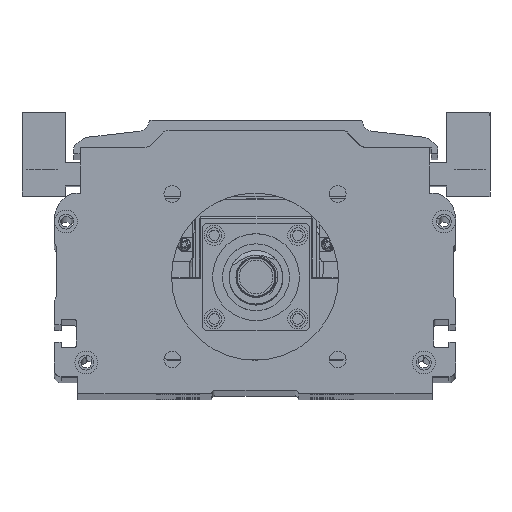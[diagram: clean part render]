
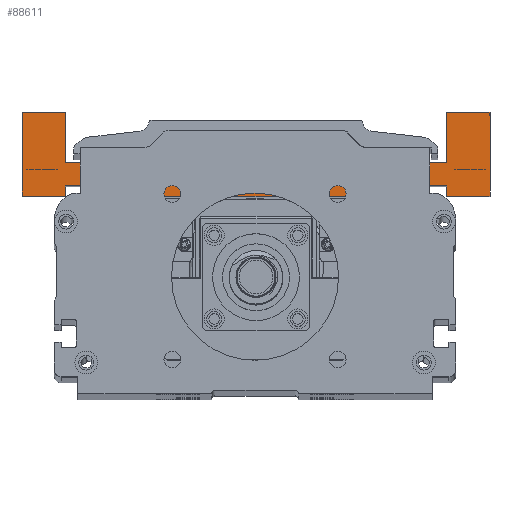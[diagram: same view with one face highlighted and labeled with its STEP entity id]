
A CAD part, top view. The second image highlights one B-rep face of the part: STEP entity #88611.
In plain terms, the highlighted planar face has unit normal (0, 0, 1) as drawn and (0, 0, -1) by its records, which use the part's own axes.
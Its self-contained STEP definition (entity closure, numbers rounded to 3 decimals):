
#235 = EDGE_CURVE ( 'NONE', #31302, #91929, #96179, .T. ) ;
#1245 = CARTESIAN_POINT ( 'NONE',  ( 13., -22., 0. ) ) ;
#1828 = DIRECTION ( 'NONE',  ( 0., 1., 0. ) ) ;
#2038 = CARTESIAN_POINT ( 'NONE',  ( 13., 0., 0. ) ) ;
#2268 = EDGE_LOOP ( 'NONE', ( #42336, #111761, #106044, #120704, #12478, #34855, #112828, #69744, #84262, #79566, #24102, #130267, #93718, #67478, #126262, #124554 ) ) ;
#2496 = LINE ( 'NONE', #72476, #26366 ) ;
#2886 = VERTEX_POINT ( 'NONE', #71598 ) ;
#5432 = VERTEX_POINT ( 'NONE', #113413 ) ;
#6831 = DIRECTION ( 'NONE',  ( 1., 0., 0. ) ) ;
#11568 = CARTESIAN_POINT ( 'NONE',  ( 13., 0., 0. ) ) ;
#11739 = VERTEX_POINT ( 'NONE', #69236 ) ;
#12478 = ORIENTED_EDGE ( 'NONE', *, *, #22990, .F. ) ;
#16610 = CARTESIAN_POINT ( 'NONE',  ( 0., -25., 0. ) ) ;
#18082 = VECTOR ( 'NONE', #118411, 1000. ) ;
#19863 = VERTEX_POINT ( 'NONE', #1245 ) ;
#19935 = CARTESIAN_POINT ( 'NONE',  ( 127., 0., 0. ) ) ;
#21296 = CARTESIAN_POINT ( 'NONE',  ( 19., -22., 0. ) ) ;
#21312 = CARTESIAN_POINT ( 'NONE',  ( 0., -25., 0. ) ) ;
#21749 = DIRECTION ( 'NONE',  ( 1., 0., 0. ) ) ;
#22179 = VECTOR ( 'NONE', #24810, 1000. ) ;
#22486 = VECTOR ( 'NONE', #72679, 1000. ) ;
#22730 = CARTESIAN_POINT ( 'NONE',  ( 19., -25., 0. ) ) ;
#22990 = EDGE_CURVE ( 'NONE', #117236, #54702, #130769, .T. ) ;
#24102 = ORIENTED_EDGE ( 'NONE', *, *, #28324, .F. ) ;
#24778 = VECTOR ( 'NONE', #59948, 1000. ) ;
#24810 = DIRECTION ( 'NONE',  ( 1., 0., 0. ) ) ;
#25621 = EDGE_CURVE ( 'NONE', #71336, #11739, #75631, .T. ) ;
#26103 = LINE ( 'NONE', #19935, #80154 ) ;
#26366 = VECTOR ( 'NONE', #1828, 1000. ) ;
#28324 = EDGE_CURVE ( 'NONE', #19863, #28991, #67203, .T. ) ;
#28455 = CARTESIAN_POINT ( 'NONE',  ( 121., -25., 0. ) ) ;
#28991 = VERTEX_POINT ( 'NONE', #21296 ) ;
#29320 = CARTESIAN_POINT ( 'NONE',  ( 140., 0., 0. ) ) ;
#29624 = LINE ( 'NONE', #104029, #131329 ) ;
#30100 = LINE ( 'NONE', #82220, #53939 ) ;
#30350 = CARTESIAN_POINT ( 'NONE',  ( 127., -15., 0. ) ) ;
#30927 = EDGE_CURVE ( 'NONE', #51628, #106822, #81301, .T. ) ;
#31302 = VERTEX_POINT ( 'NONE', #56744 ) ;
#34855 = ORIENTED_EDGE ( 'NONE', *, *, #48641, .F. ) ;
#36735 = CARTESIAN_POINT ( 'NONE',  ( 0., 0., 0. ) ) ;
#36787 = VECTOR ( 'NONE', #102818, 1000. ) ;
#36822 = CARTESIAN_POINT ( 'NONE',  ( 121., -22., 0. ) ) ;
#37093 = CARTESIAN_POINT ( 'NONE',  ( 127., -25., 0. ) ) ;
#38194 = EDGE_CURVE ( 'NONE', #94136, #51628, #107997, .T. ) ;
#38362 = VERTEX_POINT ( 'NONE', #64735 ) ;
#39688 = DIRECTION ( 'NONE',  ( -1., 0., 0. ) ) ;
#42336 = ORIENTED_EDGE ( 'NONE', *, *, #130634, .F. ) ;
#43475 = CARTESIAN_POINT ( 'NONE',  ( 121., -25., 0. ) ) ;
#45340 = VECTOR ( 'NONE', #107864, 1000. ) ;
#47491 = PLANE ( 'NONE',  #121540 ) ;
#48641 = EDGE_CURVE ( 'NONE', #5432, #117236, #117890, .T. ) ;
#49199 = LINE ( 'NONE', #85641, #22179 ) ;
#51511 = LINE ( 'NONE', #108217, #18082 ) ;
#51628 = VERTEX_POINT ( 'NONE', #43475 ) ;
#52578 = CARTESIAN_POINT ( 'NONE',  ( 140., 0., 0. ) ) ;
#53939 = VECTOR ( 'NONE', #92431, 1000. ) ;
#54702 = VERTEX_POINT ( 'NONE', #63519 ) ;
#56744 = CARTESIAN_POINT ( 'NONE',  ( 0., 0., 0. ) ) ;
#57701 = DIRECTION ( 'NONE',  ( 0., 0., 1. ) ) ;
#58733 = DIRECTION ( 'NONE',  ( 1., 0., 0. ) ) ;
#59074 = DIRECTION ( 'NONE',  ( 0., 1., 0. ) ) ;
#59948 = DIRECTION ( 'NONE',  ( -1., 0., 0. ) ) ;
#63519 = CARTESIAN_POINT ( 'NONE',  ( 140., -25., 0. ) ) ;
#63557 = DIRECTION ( 'NONE',  ( 0., -1., 0. ) ) ;
#64735 = CARTESIAN_POINT ( 'NONE',  ( 13., -25., 0. ) ) ;
#66642 = EDGE_CURVE ( 'NONE', #28991, #94136, #29624, .T. ) ;
#67203 = LINE ( 'NONE', #109859, #87890 ) ;
#67478 = ORIENTED_EDGE ( 'NONE', *, *, #235, .F. ) ;
#69236 = CARTESIAN_POINT ( 'NONE',  ( 127., 0., 0. ) ) ;
#69744 = ORIENTED_EDGE ( 'NONE', *, *, #30927, .F. ) ;
#69902 = CARTESIAN_POINT ( 'NONE',  ( 42., -15., 0. ) ) ;
#70736 = EDGE_CURVE ( 'NONE', #114577, #31302, #89250, .T. ) ;
#71336 = VERTEX_POINT ( 'NONE', #52578 ) ;
#71598 = CARTESIAN_POINT ( 'NONE',  ( 13., -15., 0. ) ) ;
#72476 = CARTESIAN_POINT ( 'NONE',  ( 13., -25., 0. ) ) ;
#72679 = DIRECTION ( 'NONE',  ( -1., 0., 0. ) ) ;
#73957 = EDGE_CURVE ( 'NONE', #91929, #38362, #49199, .T. ) ;
#75631 = LINE ( 'NONE', #29320, #24778 ) ;
#76830 = EDGE_CURVE ( 'NONE', #38362, #19863, #2496, .T. ) ;
#77041 = VECTOR ( 'NONE', #122413, 1000. ) ;
#78431 = EDGE_CURVE ( 'NONE', #11739, #108115, #26103, .T. ) ;
#78870 = EDGE_CURVE ( 'NONE', #54702, #71336, #51511, .T. ) ;
#79566 = ORIENTED_EDGE ( 'NONE', *, *, #66642, .F. ) ;
#80154 = VECTOR ( 'NONE', #111460, 1000. ) ;
#80952 = VECTOR ( 'NONE', #21749, 1000. ) ;
#81301 = LINE ( 'NONE', #28455, #105165 ) ;
#82040 = VECTOR ( 'NONE', #39688, 1000. ) ;
#82220 = CARTESIAN_POINT ( 'NONE',  ( 13., -15., 0. ) ) ;
#84262 = ORIENTED_EDGE ( 'NONE', *, *, #38194, .F. ) ;
#85641 = CARTESIAN_POINT ( 'NONE',  ( 0., -25., 0. ) ) ;
#87890 = VECTOR ( 'NONE', #58733, 1000. ) ;
#88611 = ADVANCED_FACE ( 'NONE', ( #100763 ), #47491, .F. ) ;
#89250 = LINE ( 'NONE', #2038, #22486 ) ;
#91929 = VERTEX_POINT ( 'NONE', #110007 ) ;
#92431 = DIRECTION ( 'NONE',  ( 0., 1., 0. ) ) ;
#93718 = ORIENTED_EDGE ( 'NONE', *, *, #73957, .F. ) ;
#94136 = VERTEX_POINT ( 'NONE', #22730 ) ;
#96179 = LINE ( 'NONE', #36735, #45340 ) ;
#98149 = CARTESIAN_POINT ( 'NONE',  ( 0., 0., 0. ) ) ;
#100763 = FACE_OUTER_BOUND ( 'NONE', #2268, .T. ) ;
#102818 = DIRECTION ( 'NONE',  ( 0., -1., 0. ) ) ;
#104029 = CARTESIAN_POINT ( 'NONE',  ( 19., -25., 0. ) ) ;
#105165 = VECTOR ( 'NONE', #59074, 1000. ) ;
#105967 = EDGE_CURVE ( 'NONE', #106822, #5432, #107277, .T. ) ;
#106044 = ORIENTED_EDGE ( 'NONE', *, *, #25621, .F. ) ;
#106822 = VERTEX_POINT ( 'NONE', #36822 ) ;
#107277 = LINE ( 'NONE', #112269, #77041 ) ;
#107864 = DIRECTION ( 'NONE',  ( 0., -1., 0. ) ) ;
#107997 = LINE ( 'NONE', #21312, #80952 ) ;
#108115 = VERTEX_POINT ( 'NONE', #30350 ) ;
#108217 = CARTESIAN_POINT ( 'NONE',  ( 140., -25., 0. ) ) ;
#109134 = LINE ( 'NONE', #69902, #82040 ) ;
#109859 = CARTESIAN_POINT ( 'NONE',  ( 19., -22., 0. ) ) ;
#110007 = CARTESIAN_POINT ( 'NONE',  ( 0., -25., 0. ) ) ;
#111460 = DIRECTION ( 'NONE',  ( 0., -1., 0. ) ) ;
#111761 = ORIENTED_EDGE ( 'NONE', *, *, #78431, .F. ) ;
#112269 = CARTESIAN_POINT ( 'NONE',  ( 121., -22., 0. ) ) ;
#112828 = ORIENTED_EDGE ( 'NONE', *, *, #105967, .F. ) ;
#113040 = CARTESIAN_POINT ( 'NONE',  ( 127., -25., 0. ) ) ;
#113413 = CARTESIAN_POINT ( 'NONE',  ( 127., -22., 0. ) ) ;
#114577 = VERTEX_POINT ( 'NONE', #11568 ) ;
#116144 = EDGE_CURVE ( 'NONE', #2886, #114577, #30100, .T. ) ;
#117236 = VERTEX_POINT ( 'NONE', #37093 ) ;
#117890 = LINE ( 'NONE', #113040, #36787 ) ;
#118411 = DIRECTION ( 'NONE',  ( 0., 1., 0. ) ) ;
#120704 = ORIENTED_EDGE ( 'NONE', *, *, #78870, .F. ) ;
#121540 = AXIS2_PLACEMENT_3D ( 'NONE', #98149, #57701, #128804 ) ;
#122413 = DIRECTION ( 'NONE',  ( 1., 0., 0. ) ) ;
#124554 = ORIENTED_EDGE ( 'NONE', *, *, #116144, .F. ) ;
#126262 = ORIENTED_EDGE ( 'NONE', *, *, #70736, .F. ) ;
#127550 = VECTOR ( 'NONE', #6831, 1000. ) ;
#128804 = DIRECTION ( 'NONE',  ( 1., 0., 0. ) ) ;
#130267 = ORIENTED_EDGE ( 'NONE', *, *, #76830, .F. ) ;
#130634 = EDGE_CURVE ( 'NONE', #108115, #2886, #109134, .T. ) ;
#130769 = LINE ( 'NONE', #16610, #127550 ) ;
#131329 = VECTOR ( 'NONE', #63557, 1000. ) ;
